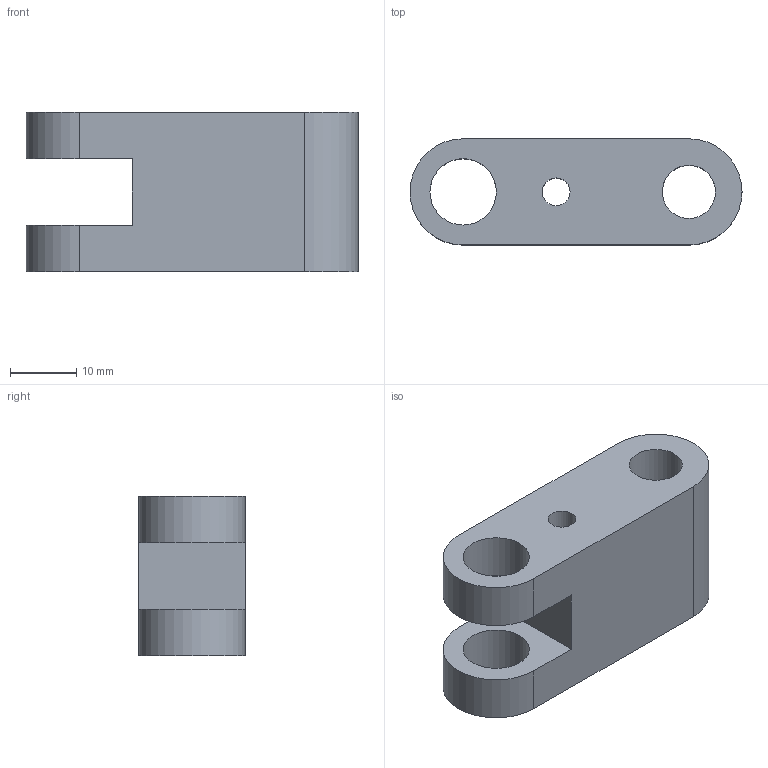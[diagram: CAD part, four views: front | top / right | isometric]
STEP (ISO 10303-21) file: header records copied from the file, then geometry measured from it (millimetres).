
FILE_DESCRIPTION(/* description */ ('STEP AP242','CAx-IF Rec.Pracs.---Representation and Presentation of Product Manufacturing Information (PMI)---4.0---2014-10-13','CAx-IF Rec.Pracs.---3D Tessellated Geometry---0.4---2014-09-14','2;1'),/* implementation_level */ '2;1');
FILE_NAME(/* name */ '67517188fb67772fa30a9ad3',/* time_stamp */ '2024-12-05T09:25:29Z',/* author */ (''),/* organization */ (''),/* preprocessor_version */ 'ST-DEVELOPER v20',/* originating_system */ 'ONSHAPE BY PTC INC, 1.190',/* authorisation */ ' ');
FILE_SCHEMA (('AP242_MANAGED_MODEL_BASED_3D_ENGINEERING_MIM_LF { 1 0 10303 442 1 1 4 }'));
Length unit declared in the file: metre
Products named in the file (1): Setting Alt
Bounding box: 50 x 16 x 24 mm (x, y, z)
Volume: 12957.7 mm3; surface area: 5451.5 mm2
Topology: 1 solids, 1 shells, 14 faces, 38 edges, 26 vertices
Faces by surface type: plane 7, cylinder 7
Full cylindrical faces by diameter (mm): 4.2 x1, 8 x1, 10 x2
Entity records: 452 total; most frequent: DIRECTION 76, CARTESIAN_POINT 71, ORIENTED_EDGE 64, EDGE_CURVE 32, AXIS2_PLACEMENT_3D 29, EDGE_LOOP 26, FACE_BOUND 26, VERTEX_POINT 24
